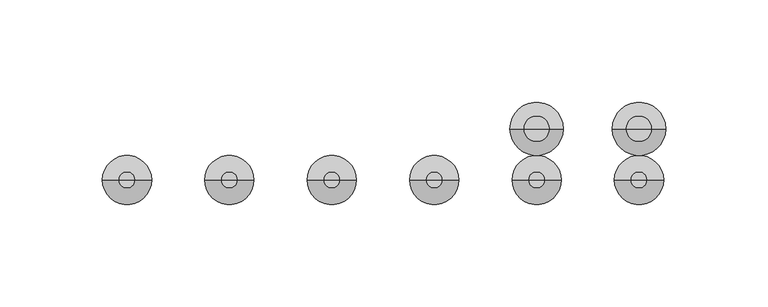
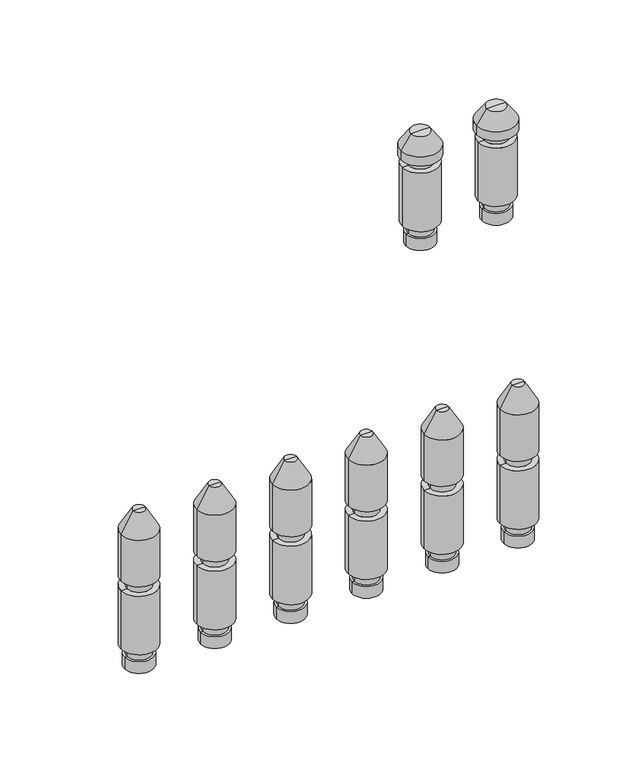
"""IFC4 building model written with IfcOpenShell, lengths in millimetres: valve geometry, PL CZ_Manifold_FT-VA : 09 circuits."""

from ifc_helpers import new_model, si_unit, frame, origin, place, context, project, spatial, polyline, circle_curve, source, transform, mapped, element, save
from ifc_brep_helpers import plane_surface, cylinder_surface, revolved_surface, advanced_brep


def valve_2528c4ae(model_context):
    return source(origin(), model_context, "Body", "AdvancedBrep", [
        advanced_brep(
        [(378.5, 0.0, -35.11267), (397.5, 0.0, -35.11267), (388.0, 0.0, -35.11267), (378.5, 0.0, -27.0369646), (397.5, 0.0, -27.0369646), (380.0, 0.0, -27.0369646), (396.0, 0.0, -27.0369646), (380.0, 0.0, -20.330253), (396.0, 0.0, -20.330253), (376.0, 0.0, -20.330253), (400.0, 0.0, -20.330253), (376.0, 0.0, 20.330253), (400.0, 0.0, 20.330253), (380.0, 0.0, 20.330253), (396.0, 0.0, 20.330253), (380.0, 0.0, 27.0474786), (396.0, 0.0, 27.0474786), (376.0, 0.0, 27.0474786), (400.0, 0.0, 27.0474786), (376.0, 0.0, 59.4084325), (400.0, 0.0, 59.4084325), (384.0, 0.0, 73.264839), (392.0, 0.0, 73.264839), (388.0, 0.0, 73.264839)],
        [
            (0, 1, circle_curve(frame((388.0, 0.0, -35.11267), z_axis=(0.0, 0.0, -1.0), x_axis=(1.0, 0.0, 0.0)), 9.5)),
            (1, 2),
            (2, 0),
            (1, 0, circle_curve(frame((388.0, 0.0, -35.11267), z_axis=(0.0, 0.0, -1.0), x_axis=(1.0, 0.0, 0.0)), 9.5)),
            (3, 4, circle_curve(frame((388.0, 0.0, -27.0369646), z_axis=(0.0, 0.0, -1.0), x_axis=(1.0, 0.0, 0.0)), 9.5)),
            (4, 1),
            (0, 3),
            (4, 3, circle_curve(frame((388.0, 0.0, -27.0369646), z_axis=(0.0, 0.0, -1.0), x_axis=(1.0, 0.0, 0.0)), 9.5)),
            (5, 6, circle_curve(frame((388.0, 0.0, -27.0369646), z_axis=(0.0, 0.0, -1.0), x_axis=(1.0, 0.0, 0.0)), 8.0)),
            (6, 4),
            (3, 5),
            (6, 5, circle_curve(frame((388.0, 0.0, -27.0369646), z_axis=(0.0, 0.0, -1.0), x_axis=(1.0, 0.0, 0.0)), 8.0)),
            (7, 8, circle_curve(frame((388.0, 0.0, -20.330253), z_axis=(0.0, 0.0, -1.0), x_axis=(1.0, 0.0, 0.0)), 8.0)),
            (8, 6),
            (5, 7),
            (8, 7, circle_curve(frame((388.0, 0.0, -20.330253), z_axis=(0.0, 0.0, -1.0), x_axis=(1.0, 0.0, 0.0)), 8.0)),
            (9, 10, circle_curve(frame((388.0, 0.0, -20.330253), z_axis=(0.0, 0.0, -1.0), x_axis=(1.0, 0.0, 0.0)), 12.0)),
            (10, 8),
            (7, 9),
            (10, 9, circle_curve(frame((388.0, 0.0, -20.330253), z_axis=(0.0, 0.0, -1.0), x_axis=(1.0, 0.0, 0.0)), 12.0)),
            (11, 12, circle_curve(frame((388.0, 0.0, 20.330253), z_axis=(0.0, 0.0, -1.0), x_axis=(1.0, 0.0, 0.0)), 12.0)),
            (12, 10),
            (9, 11),
            (12, 11, circle_curve(frame((388.0, 0.0, 20.330253), z_axis=(0.0, 0.0, -1.0), x_axis=(1.0, 0.0, 0.0)), 12.0)),
            (13, 14, circle_curve(frame((388.0, 0.0, 20.330253), z_axis=(0.0, 0.0, -1.0), x_axis=(1.0, 0.0, 0.0)), 8.0)),
            (14, 12),
            (11, 13),
            (14, 13, circle_curve(frame((388.0, 0.0, 20.330253), z_axis=(0.0, 0.0, -1.0), x_axis=(1.0, 0.0, 0.0)), 8.0)),
            (15, 16, circle_curve(frame((388.0, 0.0, 27.0474786), z_axis=(0.0, 0.0, -1.0), x_axis=(1.0, 0.0, 0.0)), 8.0)),
            (16, 14),
            (13, 15),
            (16, 15, circle_curve(frame((388.0, 0.0, 27.0474786), z_axis=(0.0, 0.0, -1.0), x_axis=(1.0, 0.0, 0.0)), 8.0)),
            (17, 18, circle_curve(frame((388.0, 0.0, 27.0474786), z_axis=(0.0, 0.0, -1.0), x_axis=(1.0, 0.0, 0.0)), 12.0)),
            (18, 16),
            (15, 17),
            (18, 17, circle_curve(frame((388.0, 0.0, 27.0474786), z_axis=(0.0, 0.0, -1.0), x_axis=(1.0, 0.0, 0.0)), 12.0)),
            (19, 20, circle_curve(frame((388.0, 0.0, 59.4084325), z_axis=(0.0, 0.0, -1.0), x_axis=(1.0, 0.0, 0.0)), 12.0)),
            (20, 18),
            (17, 19),
            (20, 19, circle_curve(frame((388.0, 0.0, 59.4084325), z_axis=(0.0, 0.0, -1.0), x_axis=(1.0, 0.0, 0.0)), 12.0)),
            (21, 22, circle_curve(frame((388.0, 0.0, 73.264839), z_axis=(0.0, 0.0, -1.0), x_axis=(1.0, 0.0, 0.0)), 4.0)),
            (22, 20),
            (19, 21),
            (22, 21, circle_curve(frame((388.0, 0.0, 73.264839), z_axis=(0.0, 0.0, -1.0), x_axis=(1.0, 0.0, 0.0)), 4.0)),
            (23, 22),
            (21, 23),
        ],
        [
            plane_surface(frame((388.0, 0.0, -35.11267), z_axis=(0.0, 0.0, -1.0), x_axis=(1.0, 0.0, 0.0))),
            cylinder_surface(frame((388.0, 0.0, 58.264839), z_axis=(0.0, 0.0, 1.0), x_axis=(1.0, 0.0, 0.0)), 9.5),
            plane_surface(frame((388.0, 0.0, -27.0369646), z_axis=(0.0, 0.0, 1.0), x_axis=(1.0, 0.0, 0.0))),
            cylinder_surface(frame((388.0, 0.0, 58.264839), z_axis=(0.0, 0.0, 1.0), x_axis=(1.0, 0.0, 0.0)), 8.0),
            plane_surface(frame((388.0, 0.0, -20.330253), z_axis=(0.0, 0.0, -1.0), x_axis=(1.0, 0.0, 0.0))),
            cylinder_surface(frame((388.0, 0.0, 58.264839), z_axis=(0.0, 0.0, 1.0), x_axis=(1.0, 0.0, 0.0)), 12.0),
            plane_surface(frame((388.0, 0.0, 20.330253), z_axis=(0.0, 0.0, 1.0), x_axis=(1.0, 0.0, 0.0))),
            plane_surface(frame((388.0, 0.0, 27.0474786), z_axis=(0.0, 0.0, -1.0), x_axis=(1.0, 0.0, 0.0))),
            revolved_surface(polyline([(400.0, 0.0, 59.4084325), (392.0, 0.0, 73.264839)]), (388.0, 0.0, 58.264839), (0.0, 0.0, 1.0)),
            plane_surface(frame((388.0, 0.0, 73.264839), z_axis=(0.0, 0.0, 1.0), x_axis=(1.0, 0.0, 0.0))),
        ],
        [
            (0, [[1, 2, 3]]),
            (0, [[4, -3, -2]]),
            (1, [[5, 6, -1, 7]]),
            (1, [[8, -7, -4, -6]]),
            (2, [[9, 10, -5, 11]]),
            (2, [[12, -11, -8, -10]]),
            (3, [[13, 14, -9, 15]]),
            (3, [[16, -15, -12, -14]]),
            (4, [[17, 18, -13, 19]]),
            (4, [[20, -19, -16, -18]]),
            (5, [[21, 22, -17, 23]]),
            (5, [[24, -23, -20, -22]]),
            (6, [[25, 26, -21, 27]]),
            (6, [[28, -27, -24, -26]]),
            (3, [[29, 30, -25, 31]]),
            (3, [[32, -31, -28, -30]]),
            (7, [[33, 34, -29, 35]]),
            (7, [[36, -35, -32, -34]]),
            (5, [[37, 38, -33, 39]]),
            (5, [[40, -39, -36, -38]]),
            (8, [[41, 42, -37, 43]]),
            (8, [[44, -43, -40, -42]]),
            (9, [[45, -41, 46]]),
            (9, [[-46, -44, -45]]),
        ],
    ),
        advanced_brep(
        [(378.5, 25.0, 174.88733), (397.5, 25.0, 174.88733), (388.0, 25.0, 174.88733), (378.5, 25.0, 182.9630354), (397.5, 25.0, 182.9630354), (380.0, 25.0, 182.9630354), (396.0, 25.0, 182.9630354), (380.0, 25.0, 189.669747), (396.0, 25.0, 189.669747), (376.0, 25.0, 189.669747), (400.0, 25.0, 189.669747), (376.0, 25.0, 230.330253), (400.0, 25.0, 230.330253), (380.0, 25.0, 230.330253), (396.0, 25.0, 230.330253), (380.0, 25.0, 236.0474786), (396.0, 25.0, 236.0474786), (375.0, 25.0, 236.0474786), (401.0, 25.0, 236.0474786), (375.0, 25.0, 242.337955), (401.0, 25.0, 242.337955), (381.6551779, 25.0, 251.842534), (394.3448221, 25.0, 251.842534), (388.0, 25.0, 251.842534)],
        [
            (0, 1, circle_curve(frame((388.0, 25.0, 174.88733), z_axis=(0.0, 0.0, -1.0), x_axis=(1.0, 0.0, 0.0)), 9.5)),
            (1, 2),
            (2, 0),
            (1, 0, circle_curve(frame((388.0, 25.0, 174.88733), z_axis=(0.0, 0.0, -1.0), x_axis=(1.0, 0.0, 0.0)), 9.5)),
            (3, 4, circle_curve(frame((388.0, 25.0, 182.9630354), z_axis=(0.0, 0.0, -1.0), x_axis=(1.0, 0.0, 0.0)), 9.5)),
            (4, 1),
            (0, 3),
            (4, 3, circle_curve(frame((388.0, 25.0, 182.9630354), z_axis=(0.0, 0.0, -1.0), x_axis=(1.0, 0.0, 0.0)), 9.5)),
            (5, 6, circle_curve(frame((388.0, 25.0, 182.9630354), z_axis=(0.0, 0.0, -1.0), x_axis=(1.0, 0.0, 0.0)), 8.0)),
            (6, 4),
            (3, 5),
            (6, 5, circle_curve(frame((388.0, 25.0, 182.9630354), z_axis=(0.0, 0.0, -1.0), x_axis=(1.0, 0.0, 0.0)), 8.0)),
            (7, 8, circle_curve(frame((388.0, 25.0, 189.669747), z_axis=(0.0, 0.0, -1.0), x_axis=(1.0, 0.0, 0.0)), 8.0)),
            (8, 6),
            (5, 7),
            (8, 7, circle_curve(frame((388.0, 25.0, 189.669747), z_axis=(0.0, 0.0, -1.0), x_axis=(1.0, 0.0, 0.0)), 8.0)),
            (9, 10, circle_curve(frame((388.0, 25.0, 189.669747), z_axis=(0.0, 0.0, -1.0), x_axis=(1.0, 0.0, 0.0)), 12.0)),
            (10, 8),
            (7, 9),
            (10, 9, circle_curve(frame((388.0, 25.0, 189.669747), z_axis=(0.0, 0.0, -1.0), x_axis=(1.0, 0.0, 0.0)), 12.0)),
            (11, 12, circle_curve(frame((388.0, 25.0, 230.330253), z_axis=(0.0, 0.0, -1.0), x_axis=(1.0, 0.0, 0.0)), 12.0)),
            (12, 10),
            (9, 11),
            (12, 11, circle_curve(frame((388.0, 25.0, 230.330253), z_axis=(0.0, 0.0, -1.0), x_axis=(1.0, 0.0, 0.0)), 12.0)),
            (13, 14, circle_curve(frame((388.0, 25.0, 230.330253), z_axis=(0.0, 0.0, -1.0), x_axis=(1.0, 0.0, 0.0)), 8.0)),
            (14, 12),
            (11, 13),
            (14, 13, circle_curve(frame((388.0, 25.0, 230.330253), z_axis=(0.0, 0.0, -1.0), x_axis=(1.0, 0.0, 0.0)), 8.0)),
            (15, 16, circle_curve(frame((388.0, 25.0, 236.0474786), z_axis=(0.0, 0.0, -1.0), x_axis=(1.0, 0.0, 0.0)), 8.0)),
            (16, 14),
            (13, 15),
            (16, 15, circle_curve(frame((388.0, 25.0, 236.0474786), z_axis=(0.0, 0.0, -1.0), x_axis=(1.0, 0.0, 0.0)), 8.0)),
            (17, 18, circle_curve(frame((388.0, 25.0, 236.0474786), z_axis=(0.0, 0.0, -1.0), x_axis=(1.0, 0.0, 0.0)), 13.0)),
            (18, 16),
            (15, 17),
            (18, 17, circle_curve(frame((388.0, 25.0, 236.0474786), z_axis=(0.0, 0.0, -1.0), x_axis=(1.0, 0.0, 0.0)), 13.0)),
            (19, 20, circle_curve(frame((388.0, 25.0, 242.337955), z_axis=(0.0, 0.0, -1.0), x_axis=(1.0, 0.0, 0.0)), 13.0)),
            (20, 18),
            (17, 19),
            (20, 19, circle_curve(frame((388.0, 25.0, 242.337955), z_axis=(0.0, 0.0, -1.0), x_axis=(1.0, 0.0, 0.0)), 13.0)),
            (21, 22, circle_curve(frame((388.0, 25.0, 251.842534), z_axis=(0.0, 0.0, -1.0), x_axis=(1.0, 0.0, 0.0)), 6.3448221)),
            (22, 20),
            (19, 21),
            (22, 21, circle_curve(frame((388.0, 25.0, 251.842534), z_axis=(0.0, 0.0, -1.0), x_axis=(1.0, 0.0, 0.0)), 6.3448221)),
            (23, 22),
            (21, 23),
        ],
        [
            plane_surface(frame((388.0, 25.0, 174.88733), z_axis=(0.0, 0.0, -1.0), x_axis=(1.0, 0.0, 0.0))),
            cylinder_surface(frame((388.0, 25.0, 247.7026565), z_axis=(0.0, 0.0, 1.0), x_axis=(1.0, 0.0, 0.0)), 9.5),
            plane_surface(frame((388.0, 25.0, 182.9630354), z_axis=(0.0, 0.0, 1.0), x_axis=(1.0, 0.0, 0.0))),
            cylinder_surface(frame((388.0, 25.0, 247.7026565), z_axis=(0.0, 0.0, 1.0), x_axis=(1.0, 0.0, 0.0)), 8.0),
            plane_surface(frame((388.0, 25.0, 189.669747), z_axis=(0.0, 0.0, -1.0), x_axis=(1.0, 0.0, 0.0))),
            cylinder_surface(frame((388.0, 25.0, 247.7026565), z_axis=(0.0, 0.0, 1.0), x_axis=(1.0, 0.0, 0.0)), 12.0),
            plane_surface(frame((388.0, 25.0, 230.330253), z_axis=(0.0, 0.0, 1.0), x_axis=(1.0, 0.0, 0.0))),
            plane_surface(frame((388.0, 25.0, 236.0474786), z_axis=(0.0, 0.0, -1.0), x_axis=(1.0, 0.0, 0.0))),
            cylinder_surface(frame((388.0, 25.0, 247.7026565), z_axis=(0.0, 0.0, 1.0), x_axis=(1.0, 0.0, 0.0)), 13.0),
            revolved_surface(polyline([(401.0, 25.0, 242.337955), (394.3448221, 25.0, 251.842534)]), (388.0, 25.0, 247.7026565), (0.0, 0.0, 1.0)),
            plane_surface(frame((388.0, 25.0, 251.842534), z_axis=(0.0, 0.0, 1.0), x_axis=(1.0, 0.0, 0.0))),
        ],
        [
            (0, [[1, 2, 3]]),
            (0, [[4, -3, -2]]),
            (1, [[5, 6, -1, 7]]),
            (1, [[8, -7, -4, -6]]),
            (2, [[9, 10, -5, 11]]),
            (2, [[12, -11, -8, -10]]),
            (3, [[13, 14, -9, 15]]),
            (3, [[16, -15, -12, -14]]),
            (4, [[17, 18, -13, 19]]),
            (4, [[20, -19, -16, -18]]),
            (5, [[21, 22, -17, 23]]),
            (5, [[24, -23, -20, -22]]),
            (6, [[25, 26, -21, 27]]),
            (6, [[28, -27, -24, -26]]),
            (3, [[29, 30, -25, 31]]),
            (3, [[32, -31, -28, -30]]),
            (7, [[33, 34, -29, 35]]),
            (7, [[36, -35, -32, -34]]),
            (8, [[37, 38, -33, 39]]),
            (8, [[40, -39, -36, -38]]),
            (9, [[41, 42, -37, 43]]),
            (9, [[44, -43, -40, -42]]),
            (10, [[45, -41, 46]]),
            (10, [[-46, -44, -45]]),
        ],
    ),
        advanced_brep(
        [(328.5, 0.0, -35.11267), (347.5, 0.0, -35.11267), (338.0, 0.0, -35.11267), (328.5, 0.0, -27.0369646), (347.5, 0.0, -27.0369646), (330.0, 0.0, -27.0369646), (346.0, 0.0, -27.0369646), (330.0, 0.0, -20.330253), (346.0, 0.0, -20.330253), (326.0, 0.0, -20.330253), (350.0, 0.0, -20.330253), (326.0, 0.0, 20.330253), (350.0, 0.0, 20.330253), (330.0, 0.0, 20.330253), (346.0, 0.0, 20.330253), (330.0, 0.0, 27.0474786), (346.0, 0.0, 27.0474786), (326.0, 0.0, 27.0474786), (350.0, 0.0, 27.0474786), (326.0, 0.0, 59.4084325), (350.0, 0.0, 59.4084325), (334.0, 0.0, 73.264839), (342.0, 0.0, 73.264839), (338.0, 0.0, 73.264839)],
        [
            (0, 1, circle_curve(frame((338.0, 0.0, -35.11267), z_axis=(0.0, 0.0, -1.0), x_axis=(1.0, 0.0, 0.0)), 9.5)),
            (1, 2),
            (2, 0),
            (1, 0, circle_curve(frame((338.0, 0.0, -35.11267), z_axis=(0.0, 0.0, -1.0), x_axis=(1.0, 0.0, 0.0)), 9.5)),
            (3, 4, circle_curve(frame((338.0, 0.0, -27.0369646), z_axis=(0.0, 0.0, -1.0), x_axis=(1.0, 0.0, 0.0)), 9.5)),
            (4, 1),
            (0, 3),
            (4, 3, circle_curve(frame((338.0, 0.0, -27.0369646), z_axis=(0.0, 0.0, -1.0), x_axis=(1.0, 0.0, 0.0)), 9.5)),
            (5, 6, circle_curve(frame((338.0, 0.0, -27.0369646), z_axis=(0.0, 0.0, -1.0), x_axis=(1.0, 0.0, 0.0)), 8.0)),
            (6, 4),
            (3, 5),
            (6, 5, circle_curve(frame((338.0, 0.0, -27.0369646), z_axis=(0.0, 0.0, -1.0), x_axis=(1.0, 0.0, 0.0)), 8.0)),
            (7, 8, circle_curve(frame((338.0, 0.0, -20.330253), z_axis=(0.0, 0.0, -1.0), x_axis=(1.0, 0.0, 0.0)), 8.0)),
            (8, 6),
            (5, 7),
            (8, 7, circle_curve(frame((338.0, 0.0, -20.330253), z_axis=(0.0, 0.0, -1.0), x_axis=(1.0, 0.0, 0.0)), 8.0)),
            (9, 10, circle_curve(frame((338.0, 0.0, -20.330253), z_axis=(0.0, 0.0, -1.0), x_axis=(1.0, 0.0, 0.0)), 12.0)),
            (10, 8),
            (7, 9),
            (10, 9, circle_curve(frame((338.0, 0.0, -20.330253), z_axis=(0.0, 0.0, -1.0), x_axis=(1.0, 0.0, 0.0)), 12.0)),
            (11, 12, circle_curve(frame((338.0, 0.0, 20.330253), z_axis=(0.0, 0.0, -1.0), x_axis=(1.0, 0.0, 0.0)), 12.0)),
            (12, 10),
            (9, 11),
            (12, 11, circle_curve(frame((338.0, 0.0, 20.330253), z_axis=(0.0, 0.0, -1.0), x_axis=(1.0, 0.0, 0.0)), 12.0)),
            (13, 14, circle_curve(frame((338.0, 0.0, 20.330253), z_axis=(0.0, 0.0, -1.0), x_axis=(1.0, 0.0, 0.0)), 8.0)),
            (14, 12),
            (11, 13),
            (14, 13, circle_curve(frame((338.0, 0.0, 20.330253), z_axis=(0.0, 0.0, -1.0), x_axis=(1.0, 0.0, 0.0)), 8.0)),
            (15, 16, circle_curve(frame((338.0, 0.0, 27.0474786), z_axis=(0.0, 0.0, -1.0), x_axis=(1.0, 0.0, 0.0)), 8.0)),
            (16, 14),
            (13, 15),
            (16, 15, circle_curve(frame((338.0, 0.0, 27.0474786), z_axis=(0.0, 0.0, -1.0), x_axis=(1.0, 0.0, 0.0)), 8.0)),
            (17, 18, circle_curve(frame((338.0, 0.0, 27.0474786), z_axis=(0.0, 0.0, -1.0), x_axis=(1.0, 0.0, 0.0)), 12.0)),
            (18, 16),
            (15, 17),
            (18, 17, circle_curve(frame((338.0, 0.0, 27.0474786), z_axis=(0.0, 0.0, -1.0), x_axis=(1.0, 0.0, 0.0)), 12.0)),
            (19, 20, circle_curve(frame((338.0, 0.0, 59.4084325), z_axis=(0.0, 0.0, -1.0), x_axis=(1.0, 0.0, 0.0)), 12.0)),
            (20, 18),
            (17, 19),
            (20, 19, circle_curve(frame((338.0, 0.0, 59.4084325), z_axis=(0.0, 0.0, -1.0), x_axis=(1.0, 0.0, 0.0)), 12.0)),
            (21, 22, circle_curve(frame((338.0, 0.0, 73.264839), z_axis=(0.0, 0.0, -1.0), x_axis=(1.0, 0.0, 0.0)), 4.0)),
            (22, 20),
            (19, 21),
            (22, 21, circle_curve(frame((338.0, 0.0, 73.264839), z_axis=(0.0, 0.0, -1.0), x_axis=(1.0, 0.0, 0.0)), 4.0)),
            (23, 22),
            (21, 23),
        ],
        [
            plane_surface(frame((338.0, 0.0, -35.11267), z_axis=(0.0, 0.0, -1.0), x_axis=(1.0, 0.0, 0.0))),
            cylinder_surface(frame((338.0, 0.0, 58.264839), z_axis=(0.0, 0.0, 1.0), x_axis=(1.0, 0.0, 0.0)), 9.5),
            plane_surface(frame((338.0, 0.0, -27.0369646), z_axis=(0.0, 0.0, 1.0), x_axis=(1.0, 0.0, 0.0))),
            cylinder_surface(frame((338.0, 0.0, 58.264839), z_axis=(0.0, 0.0, 1.0), x_axis=(1.0, 0.0, 0.0)), 8.0),
            plane_surface(frame((338.0, 0.0, -20.330253), z_axis=(0.0, 0.0, -1.0), x_axis=(1.0, 0.0, 0.0))),
            cylinder_surface(frame((338.0, 0.0, 58.264839), z_axis=(0.0, 0.0, 1.0), x_axis=(1.0, 0.0, 0.0)), 12.0),
            plane_surface(frame((338.0, 0.0, 20.330253), z_axis=(0.0, 0.0, 1.0), x_axis=(1.0, 0.0, 0.0))),
            plane_surface(frame((338.0, 0.0, 27.0474786), z_axis=(0.0, 0.0, -1.0), x_axis=(1.0, 0.0, 0.0))),
            revolved_surface(polyline([(350.0, 0.0, 59.4084325), (342.0, 0.0, 73.264839)]), (338.0, 0.0, 58.264839), (0.0, 0.0, 1.0)),
            plane_surface(frame((338.0, 0.0, 73.264839), z_axis=(0.0, 0.0, 1.0), x_axis=(1.0, 0.0, 0.0))),
        ],
        [
            (0, [[1, 2, 3]]),
            (0, [[4, -3, -2]]),
            (1, [[5, 6, -1, 7]]),
            (1, [[8, -7, -4, -6]]),
            (2, [[9, 10, -5, 11]]),
            (2, [[12, -11, -8, -10]]),
            (3, [[13, 14, -9, 15]]),
            (3, [[16, -15, -12, -14]]),
            (4, [[17, 18, -13, 19]]),
            (4, [[20, -19, -16, -18]]),
            (5, [[21, 22, -17, 23]]),
            (5, [[24, -23, -20, -22]]),
            (6, [[25, 26, -21, 27]]),
            (6, [[28, -27, -24, -26]]),
            (3, [[29, 30, -25, 31]]),
            (3, [[32, -31, -28, -30]]),
            (7, [[33, 34, -29, 35]]),
            (7, [[36, -35, -32, -34]]),
            (5, [[37, 38, -33, 39]]),
            (5, [[40, -39, -36, -38]]),
            (8, [[41, 42, -37, 43]]),
            (8, [[44, -43, -40, -42]]),
            (9, [[45, -41, 46]]),
            (9, [[-46, -44, -45]]),
        ],
    ),
        advanced_brep(
        [(328.5, 25.0, 174.88733), (347.5, 25.0, 174.88733), (338.0, 25.0, 174.88733), (328.5, 25.0, 182.9630354), (347.5, 25.0, 182.9630354), (330.0, 25.0, 182.9630354), (346.0, 25.0, 182.9630354), (330.0, 25.0, 189.669747), (346.0, 25.0, 189.669747), (326.0, 25.0, 189.669747), (350.0, 25.0, 189.669747), (326.0, 25.0, 230.330253), (350.0, 25.0, 230.330253), (330.0, 25.0, 230.330253), (346.0, 25.0, 230.330253), (330.0, 25.0, 236.0474786), (346.0, 25.0, 236.0474786), (325.0, 25.0, 236.0474786), (351.0, 25.0, 236.0474786), (325.0, 25.0, 242.337955), (351.0, 25.0, 242.337955), (331.6551779, 25.0, 251.842534), (344.3448221, 25.0, 251.842534), (338.0, 25.0, 251.842534)],
        [
            (0, 1, circle_curve(frame((338.0, 25.0, 174.88733), z_axis=(0.0, 0.0, -1.0), x_axis=(1.0, 0.0, 0.0)), 9.5)),
            (1, 2),
            (2, 0),
            (1, 0, circle_curve(frame((338.0, 25.0, 174.88733), z_axis=(0.0, 0.0, -1.0), x_axis=(1.0, 0.0, 0.0)), 9.5)),
            (3, 4, circle_curve(frame((338.0, 25.0, 182.9630354), z_axis=(0.0, 0.0, -1.0), x_axis=(1.0, 0.0, 0.0)), 9.5)),
            (4, 1),
            (0, 3),
            (4, 3, circle_curve(frame((338.0, 25.0, 182.9630354), z_axis=(0.0, 0.0, -1.0), x_axis=(1.0, 0.0, 0.0)), 9.5)),
            (5, 6, circle_curve(frame((338.0, 25.0, 182.9630354), z_axis=(0.0, 0.0, -1.0), x_axis=(1.0, 0.0, 0.0)), 8.0)),
            (6, 4),
            (3, 5),
            (6, 5, circle_curve(frame((338.0, 25.0, 182.9630354), z_axis=(0.0, 0.0, -1.0), x_axis=(1.0, 0.0, 0.0)), 8.0)),
            (7, 8, circle_curve(frame((338.0, 25.0, 189.669747), z_axis=(0.0, 0.0, -1.0), x_axis=(1.0, 0.0, 0.0)), 8.0)),
            (8, 6),
            (5, 7),
            (8, 7, circle_curve(frame((338.0, 25.0, 189.669747), z_axis=(0.0, 0.0, -1.0), x_axis=(1.0, 0.0, 0.0)), 8.0)),
            (9, 10, circle_curve(frame((338.0, 25.0, 189.669747), z_axis=(0.0, 0.0, -1.0), x_axis=(1.0, 0.0, 0.0)), 12.0)),
            (10, 8),
            (7, 9),
            (10, 9, circle_curve(frame((338.0, 25.0, 189.669747), z_axis=(0.0, 0.0, -1.0), x_axis=(1.0, 0.0, 0.0)), 12.0)),
            (11, 12, circle_curve(frame((338.0, 25.0, 230.330253), z_axis=(0.0, 0.0, -1.0), x_axis=(1.0, 0.0, 0.0)), 12.0)),
            (12, 10),
            (9, 11),
            (12, 11, circle_curve(frame((338.0, 25.0, 230.330253), z_axis=(0.0, 0.0, -1.0), x_axis=(1.0, 0.0, 0.0)), 12.0)),
            (13, 14, circle_curve(frame((338.0, 25.0, 230.330253), z_axis=(0.0, 0.0, -1.0), x_axis=(1.0, 0.0, 0.0)), 8.0)),
            (14, 12),
            (11, 13),
            (14, 13, circle_curve(frame((338.0, 25.0, 230.330253), z_axis=(0.0, 0.0, -1.0), x_axis=(1.0, 0.0, 0.0)), 8.0)),
            (15, 16, circle_curve(frame((338.0, 25.0, 236.0474786), z_axis=(0.0, 0.0, -1.0), x_axis=(1.0, 0.0, 0.0)), 8.0)),
            (16, 14),
            (13, 15),
            (16, 15, circle_curve(frame((338.0, 25.0, 236.0474786), z_axis=(0.0, 0.0, -1.0), x_axis=(1.0, 0.0, 0.0)), 8.0)),
            (17, 18, circle_curve(frame((338.0, 25.0, 236.0474786), z_axis=(0.0, 0.0, -1.0), x_axis=(1.0, 0.0, 0.0)), 13.0)),
            (18, 16),
            (15, 17),
            (18, 17, circle_curve(frame((338.0, 25.0, 236.0474786), z_axis=(0.0, 0.0, -1.0), x_axis=(1.0, 0.0, 0.0)), 13.0)),
            (19, 20, circle_curve(frame((338.0, 25.0, 242.337955), z_axis=(0.0, 0.0, -1.0), x_axis=(1.0, 0.0, 0.0)), 13.0)),
            (20, 18),
            (17, 19),
            (20, 19, circle_curve(frame((338.0, 25.0, 242.337955), z_axis=(0.0, 0.0, -1.0), x_axis=(1.0, 0.0, 0.0)), 13.0)),
            (21, 22, circle_curve(frame((338.0, 25.0, 251.842534), z_axis=(0.0, 0.0, -1.0), x_axis=(1.0, 0.0, 0.0)), 6.3448221)),
            (22, 20),
            (19, 21),
            (22, 21, circle_curve(frame((338.0, 25.0, 251.842534), z_axis=(0.0, 0.0, -1.0), x_axis=(1.0, 0.0, 0.0)), 6.3448221)),
            (23, 22),
            (21, 23),
        ],
        [
            plane_surface(frame((338.0, 25.0, 174.88733), z_axis=(0.0, 0.0, -1.0), x_axis=(1.0, 0.0, 0.0))),
            cylinder_surface(frame((338.0, 25.0, 247.7026565), z_axis=(0.0, 0.0, 1.0), x_axis=(1.0, 0.0, 0.0)), 9.5),
            plane_surface(frame((338.0, 25.0, 182.9630354), z_axis=(0.0, 0.0, 1.0), x_axis=(1.0, 0.0, 0.0))),
            cylinder_surface(frame((338.0, 25.0, 247.7026565), z_axis=(0.0, 0.0, 1.0), x_axis=(1.0, 0.0, 0.0)), 8.0),
            plane_surface(frame((338.0, 25.0, 189.669747), z_axis=(0.0, 0.0, -1.0), x_axis=(1.0, 0.0, 0.0))),
            cylinder_surface(frame((338.0, 25.0, 247.7026565), z_axis=(0.0, 0.0, 1.0), x_axis=(1.0, 0.0, 0.0)), 12.0),
            plane_surface(frame((338.0, 25.0, 230.330253), z_axis=(0.0, 0.0, 1.0), x_axis=(1.0, 0.0, 0.0))),
            plane_surface(frame((338.0, 25.0, 236.0474786), z_axis=(0.0, 0.0, -1.0), x_axis=(1.0, 0.0, 0.0))),
            cylinder_surface(frame((338.0, 25.0, 247.7026565), z_axis=(0.0, 0.0, 1.0), x_axis=(1.0, 0.0, 0.0)), 13.0),
            revolved_surface(polyline([(351.0, 25.0, 242.337955), (344.3448221, 25.0, 251.842534)]), (338.0, 25.0, 247.7026565), (0.0, 0.0, 1.0)),
            plane_surface(frame((338.0, 25.0, 251.842534), z_axis=(0.0, 0.0, 1.0), x_axis=(1.0, 0.0, 0.0))),
        ],
        [
            (0, [[1, 2, 3]]),
            (0, [[4, -3, -2]]),
            (1, [[5, 6, -1, 7]]),
            (1, [[8, -7, -4, -6]]),
            (2, [[9, 10, -5, 11]]),
            (2, [[12, -11, -8, -10]]),
            (3, [[13, 14, -9, 15]]),
            (3, [[16, -15, -12, -14]]),
            (4, [[17, 18, -13, 19]]),
            (4, [[20, -19, -16, -18]]),
            (5, [[21, 22, -17, 23]]),
            (5, [[24, -23, -20, -22]]),
            (6, [[25, 26, -21, 27]]),
            (6, [[28, -27, -24, -26]]),
            (3, [[29, 30, -25, 31]]),
            (3, [[32, -31, -28, -30]]),
            (7, [[33, 34, -29, 35]]),
            (7, [[36, -35, -32, -34]]),
            (8, [[37, 38, -33, 39]]),
            (8, [[40, -39, -36, -38]]),
            (9, [[41, 42, -37, 43]]),
            (9, [[44, -43, -40, -42]]),
            (10, [[45, -41, 46]]),
            (10, [[-46, -44, -45]]),
        ],
    ),
        advanced_brep(
        [(278.5, 0.0, -35.11267), (297.5, 0.0, -35.11267), (288.0, 0.0, -35.11267), (278.5, 0.0, -27.0369646), (297.5, 0.0, -27.0369646), (280.0, 0.0, -27.0369646), (296.0, 0.0, -27.0369646), (280.0, 0.0, -20.330253), (296.0, 0.0, -20.330253), (276.0, 0.0, -20.330253), (300.0, 0.0, -20.330253), (276.0, 0.0, 20.330253), (300.0, 0.0, 20.330253), (280.0, 0.0, 20.330253), (296.0, 0.0, 20.330253), (280.0, 0.0, 27.0474786), (296.0, 0.0, 27.0474786), (276.0, 0.0, 27.0474786), (300.0, 0.0, 27.0474786), (276.0, 0.0, 59.4084325), (300.0, 0.0, 59.4084325), (284.0, 0.0, 73.264839), (292.0, 0.0, 73.264839), (288.0, 0.0, 73.264839)],
        [
            (0, 1, circle_curve(frame((288.0, 0.0, -35.11267), z_axis=(0.0, 0.0, -1.0), x_axis=(1.0, 0.0, 0.0)), 9.5)),
            (1, 2),
            (2, 0),
            (1, 0, circle_curve(frame((288.0, 0.0, -35.11267), z_axis=(0.0, 0.0, -1.0), x_axis=(1.0, 0.0, 0.0)), 9.5)),
            (3, 4, circle_curve(frame((288.0, 0.0, -27.0369646), z_axis=(0.0, 0.0, -1.0), x_axis=(1.0, 0.0, 0.0)), 9.5)),
            (4, 1),
            (0, 3),
            (4, 3, circle_curve(frame((288.0, 0.0, -27.0369646), z_axis=(0.0, 0.0, -1.0), x_axis=(1.0, 0.0, 0.0)), 9.5)),
            (5, 6, circle_curve(frame((288.0, 0.0, -27.0369646), z_axis=(0.0, 0.0, -1.0), x_axis=(1.0, 0.0, 0.0)), 8.0)),
            (6, 4),
            (3, 5),
            (6, 5, circle_curve(frame((288.0, 0.0, -27.0369646), z_axis=(0.0, 0.0, -1.0), x_axis=(1.0, 0.0, 0.0)), 8.0)),
            (7, 8, circle_curve(frame((288.0, 0.0, -20.330253), z_axis=(0.0, 0.0, -1.0), x_axis=(1.0, 0.0, 0.0)), 8.0)),
            (8, 6),
            (5, 7),
            (8, 7, circle_curve(frame((288.0, 0.0, -20.330253), z_axis=(0.0, 0.0, -1.0), x_axis=(1.0, 0.0, 0.0)), 8.0)),
            (9, 10, circle_curve(frame((288.0, 0.0, -20.330253), z_axis=(0.0, 0.0, -1.0), x_axis=(1.0, 0.0, 0.0)), 12.0)),
            (10, 8),
            (7, 9),
            (10, 9, circle_curve(frame((288.0, 0.0, -20.330253), z_axis=(0.0, 0.0, -1.0), x_axis=(1.0, 0.0, 0.0)), 12.0)),
            (11, 12, circle_curve(frame((288.0, 0.0, 20.330253), z_axis=(0.0, 0.0, -1.0), x_axis=(1.0, 0.0, 0.0)), 12.0)),
            (12, 10),
            (9, 11),
            (12, 11, circle_curve(frame((288.0, 0.0, 20.330253), z_axis=(0.0, 0.0, -1.0), x_axis=(1.0, 0.0, 0.0)), 12.0)),
            (13, 14, circle_curve(frame((288.0, 0.0, 20.330253), z_axis=(0.0, 0.0, -1.0), x_axis=(1.0, 0.0, 0.0)), 8.0)),
            (14, 12),
            (11, 13),
            (14, 13, circle_curve(frame((288.0, 0.0, 20.330253), z_axis=(0.0, 0.0, -1.0), x_axis=(1.0, 0.0, 0.0)), 8.0)),
            (15, 16, circle_curve(frame((288.0, 0.0, 27.0474786), z_axis=(0.0, 0.0, -1.0), x_axis=(1.0, 0.0, 0.0)), 8.0)),
            (16, 14),
            (13, 15),
            (16, 15, circle_curve(frame((288.0, 0.0, 27.0474786), z_axis=(0.0, 0.0, -1.0), x_axis=(1.0, 0.0, 0.0)), 8.0)),
            (17, 18, circle_curve(frame((288.0, 0.0, 27.0474786), z_axis=(0.0, 0.0, -1.0), x_axis=(1.0, 0.0, 0.0)), 12.0)),
            (18, 16),
            (15, 17),
            (18, 17, circle_curve(frame((288.0, 0.0, 27.0474786), z_axis=(0.0, 0.0, -1.0), x_axis=(1.0, 0.0, 0.0)), 12.0)),
            (19, 20, circle_curve(frame((288.0, 0.0, 59.4084325), z_axis=(0.0, 0.0, -1.0), x_axis=(1.0, 0.0, 0.0)), 12.0)),
            (20, 18),
            (17, 19),
            (20, 19, circle_curve(frame((288.0, 0.0, 59.4084325), z_axis=(0.0, 0.0, -1.0), x_axis=(1.0, 0.0, 0.0)), 12.0)),
            (21, 22, circle_curve(frame((288.0, 0.0, 73.264839), z_axis=(0.0, 0.0, -1.0), x_axis=(1.0, 0.0, 0.0)), 4.0)),
            (22, 20),
            (19, 21),
            (22, 21, circle_curve(frame((288.0, 0.0, 73.264839), z_axis=(0.0, 0.0, -1.0), x_axis=(1.0, 0.0, 0.0)), 4.0)),
            (23, 22),
            (21, 23),
        ],
        [
            plane_surface(frame((288.0, 0.0, -35.11267), z_axis=(0.0, 0.0, -1.0), x_axis=(1.0, 0.0, 0.0))),
            cylinder_surface(frame((288.0, 0.0, 58.264839), z_axis=(0.0, 0.0, 1.0), x_axis=(1.0, 0.0, 0.0)), 9.5),
            plane_surface(frame((288.0, 0.0, -27.0369646), z_axis=(0.0, 0.0, 1.0), x_axis=(1.0, 0.0, 0.0))),
            cylinder_surface(frame((288.0, 0.0, 58.264839), z_axis=(0.0, 0.0, 1.0), x_axis=(1.0, 0.0, 0.0)), 8.0),
            plane_surface(frame((288.0, 0.0, -20.330253), z_axis=(0.0, 0.0, -1.0), x_axis=(1.0, 0.0, 0.0))),
            cylinder_surface(frame((288.0, 0.0, 58.264839), z_axis=(0.0, 0.0, 1.0), x_axis=(1.0, 0.0, 0.0)), 12.0),
            plane_surface(frame((288.0, 0.0, 20.330253), z_axis=(0.0, 0.0, 1.0), x_axis=(1.0, 0.0, 0.0))),
            plane_surface(frame((288.0, 0.0, 27.0474786), z_axis=(0.0, 0.0, -1.0), x_axis=(1.0, 0.0, 0.0))),
            revolved_surface(polyline([(300.0, 0.0, 59.4084325), (292.0, 0.0, 73.264839)]), (288.0, 0.0, 58.264839), (0.0, 0.0, 1.0)),
            plane_surface(frame((288.0, 0.0, 73.264839), z_axis=(0.0, 0.0, 1.0), x_axis=(1.0, 0.0, 0.0))),
        ],
        [
            (0, [[1, 2, 3]]),
            (0, [[4, -3, -2]]),
            (1, [[5, 6, -1, 7]]),
            (1, [[8, -7, -4, -6]]),
            (2, [[9, 10, -5, 11]]),
            (2, [[12, -11, -8, -10]]),
            (3, [[13, 14, -9, 15]]),
            (3, [[16, -15, -12, -14]]),
            (4, [[17, 18, -13, 19]]),
            (4, [[20, -19, -16, -18]]),
            (5, [[21, 22, -17, 23]]),
            (5, [[24, -23, -20, -22]]),
            (6, [[25, 26, -21, 27]]),
            (6, [[28, -27, -24, -26]]),
            (3, [[29, 30, -25, 31]]),
            (3, [[32, -31, -28, -30]]),
            (7, [[33, 34, -29, 35]]),
            (7, [[36, -35, -32, -34]]),
            (5, [[37, 38, -33, 39]]),
            (5, [[40, -39, -36, -38]]),
            (8, [[41, 42, -37, 43]]),
            (8, [[44, -43, -40, -42]]),
            (9, [[45, -41, 46]]),
            (9, [[-46, -44, -45]]),
        ],
    ),
        advanced_brep(
        [(228.5, 0.0, -35.11267), (247.5, 0.0, -35.11267), (238.0, 0.0, -35.11267), (228.5, 0.0, -27.0369646), (247.5, 0.0, -27.0369646), (230.0, 0.0, -27.0369646), (246.0, 0.0, -27.0369646), (230.0, 0.0, -20.330253), (246.0, 0.0, -20.330253), (226.0, 0.0, -20.330253), (250.0, 0.0, -20.330253), (226.0, 0.0, 20.330253), (250.0, 0.0, 20.330253), (230.0, 0.0, 20.330253), (246.0, 0.0, 20.330253), (230.0, 0.0, 27.0474786), (246.0, 0.0, 27.0474786), (226.0, 0.0, 27.0474786), (250.0, 0.0, 27.0474786), (226.0, 0.0, 59.4084325), (250.0, 0.0, 59.4084325), (234.0, 0.0, 73.264839), (242.0, 0.0, 73.264839), (238.0, 0.0, 73.264839)],
        [
            (0, 1, circle_curve(frame((238.0, 0.0, -35.11267), z_axis=(0.0, 0.0, -1.0), x_axis=(1.0, 0.0, 0.0)), 9.5)),
            (1, 2),
            (2, 0),
            (1, 0, circle_curve(frame((238.0, 0.0, -35.11267), z_axis=(0.0, 0.0, -1.0), x_axis=(1.0, 0.0, 0.0)), 9.5)),
            (3, 4, circle_curve(frame((238.0, 0.0, -27.0369646), z_axis=(0.0, 0.0, -1.0), x_axis=(1.0, 0.0, 0.0)), 9.5)),
            (4, 1),
            (0, 3),
            (4, 3, circle_curve(frame((238.0, 0.0, -27.0369646), z_axis=(0.0, 0.0, -1.0), x_axis=(1.0, 0.0, 0.0)), 9.5)),
            (5, 6, circle_curve(frame((238.0, 0.0, -27.0369646), z_axis=(0.0, 0.0, -1.0), x_axis=(1.0, 0.0, 0.0)), 8.0)),
            (6, 4),
            (3, 5),
            (6, 5, circle_curve(frame((238.0, 0.0, -27.0369646), z_axis=(0.0, 0.0, -1.0), x_axis=(1.0, 0.0, 0.0)), 8.0)),
            (7, 8, circle_curve(frame((238.0, 0.0, -20.330253), z_axis=(0.0, 0.0, -1.0), x_axis=(1.0, 0.0, 0.0)), 8.0)),
            (8, 6),
            (5, 7),
            (8, 7, circle_curve(frame((238.0, 0.0, -20.330253), z_axis=(0.0, 0.0, -1.0), x_axis=(1.0, 0.0, 0.0)), 8.0)),
            (9, 10, circle_curve(frame((238.0, 0.0, -20.330253), z_axis=(0.0, 0.0, -1.0), x_axis=(1.0, 0.0, 0.0)), 12.0)),
            (10, 8),
            (7, 9),
            (10, 9, circle_curve(frame((238.0, 0.0, -20.330253), z_axis=(0.0, 0.0, -1.0), x_axis=(1.0, 0.0, 0.0)), 12.0)),
            (11, 12, circle_curve(frame((238.0, 0.0, 20.330253), z_axis=(0.0, 0.0, -1.0), x_axis=(1.0, 0.0, 0.0)), 12.0)),
            (12, 10),
            (9, 11),
            (12, 11, circle_curve(frame((238.0, 0.0, 20.330253), z_axis=(0.0, 0.0, -1.0), x_axis=(1.0, 0.0, 0.0)), 12.0)),
            (13, 14, circle_curve(frame((238.0, 0.0, 20.330253), z_axis=(0.0, 0.0, -1.0), x_axis=(1.0, 0.0, 0.0)), 8.0)),
            (14, 12),
            (11, 13),
            (14, 13, circle_curve(frame((238.0, 0.0, 20.330253), z_axis=(0.0, 0.0, -1.0), x_axis=(1.0, 0.0, 0.0)), 8.0)),
            (15, 16, circle_curve(frame((238.0, 0.0, 27.0474786), z_axis=(0.0, 0.0, -1.0), x_axis=(1.0, 0.0, 0.0)), 8.0)),
            (16, 14),
            (13, 15),
            (16, 15, circle_curve(frame((238.0, 0.0, 27.0474786), z_axis=(0.0, 0.0, -1.0), x_axis=(1.0, 0.0, 0.0)), 8.0)),
            (17, 18, circle_curve(frame((238.0, 0.0, 27.0474786), z_axis=(0.0, 0.0, -1.0), x_axis=(1.0, 0.0, 0.0)), 12.0)),
            (18, 16),
            (15, 17),
            (18, 17, circle_curve(frame((238.0, 0.0, 27.0474786), z_axis=(0.0, 0.0, -1.0), x_axis=(1.0, 0.0, 0.0)), 12.0)),
            (19, 20, circle_curve(frame((238.0, 0.0, 59.4084325), z_axis=(0.0, 0.0, -1.0), x_axis=(1.0, 0.0, 0.0)), 12.0)),
            (20, 18),
            (17, 19),
            (20, 19, circle_curve(frame((238.0, 0.0, 59.4084325), z_axis=(0.0, 0.0, -1.0), x_axis=(1.0, 0.0, 0.0)), 12.0)),
            (21, 22, circle_curve(frame((238.0, 0.0, 73.264839), z_axis=(0.0, 0.0, -1.0), x_axis=(1.0, 0.0, 0.0)), 4.0)),
            (22, 20),
            (19, 21),
            (22, 21, circle_curve(frame((238.0, 0.0, 73.264839), z_axis=(0.0, 0.0, -1.0), x_axis=(1.0, 0.0, 0.0)), 4.0)),
            (23, 22),
            (21, 23),
        ],
        [
            plane_surface(frame((238.0, 0.0, -35.11267), z_axis=(0.0, 0.0, -1.0), x_axis=(1.0, 0.0, 0.0))),
            cylinder_surface(frame((238.0, 0.0, 58.264839), z_axis=(0.0, 0.0, 1.0), x_axis=(1.0, 0.0, 0.0)), 9.5),
            plane_surface(frame((238.0, 0.0, -27.0369646), z_axis=(0.0, 0.0, 1.0), x_axis=(1.0, 0.0, 0.0))),
            cylinder_surface(frame((238.0, 0.0, 58.264839), z_axis=(0.0, 0.0, 1.0), x_axis=(1.0, 0.0, 0.0)), 8.0),
            plane_surface(frame((238.0, 0.0, -20.330253), z_axis=(0.0, 0.0, -1.0), x_axis=(1.0, 0.0, 0.0))),
            cylinder_surface(frame((238.0, 0.0, 58.264839), z_axis=(0.0, 0.0, 1.0), x_axis=(1.0, 0.0, 0.0)), 12.0),
            plane_surface(frame((238.0, 0.0, 20.330253), z_axis=(0.0, 0.0, 1.0), x_axis=(1.0, 0.0, 0.0))),
            plane_surface(frame((238.0, 0.0, 27.0474786), z_axis=(0.0, 0.0, -1.0), x_axis=(1.0, 0.0, 0.0))),
            revolved_surface(polyline([(250.0, 0.0, 59.4084325), (242.0, 0.0, 73.264839)]), (238.0, 0.0, 58.264839), (0.0, 0.0, 1.0)),
            plane_surface(frame((238.0, 0.0, 73.264839), z_axis=(0.0, 0.0, 1.0), x_axis=(1.0, 0.0, 0.0))),
        ],
        [
            (0, [[1, 2, 3]]),
            (0, [[4, -3, -2]]),
            (1, [[5, 6, -1, 7]]),
            (1, [[8, -7, -4, -6]]),
            (2, [[9, 10, -5, 11]]),
            (2, [[12, -11, -8, -10]]),
            (3, [[13, 14, -9, 15]]),
            (3, [[16, -15, -12, -14]]),
            (4, [[17, 18, -13, 19]]),
            (4, [[20, -19, -16, -18]]),
            (5, [[21, 22, -17, 23]]),
            (5, [[24, -23, -20, -22]]),
            (6, [[25, 26, -21, 27]]),
            (6, [[28, -27, -24, -26]]),
            (3, [[29, 30, -25, 31]]),
            (3, [[32, -31, -28, -30]]),
            (7, [[33, 34, -29, 35]]),
            (7, [[36, -35, -32, -34]]),
            (5, [[37, 38, -33, 39]]),
            (5, [[40, -39, -36, -38]]),
            (8, [[41, 42, -37, 43]]),
            (8, [[44, -43, -40, -42]]),
            (9, [[45, -41, 46]]),
            (9, [[-46, -44, -45]]),
        ],
    ),
        advanced_brep(
        [(178.5, 0.0, -35.11267), (197.5, 0.0, -35.11267), (188.0, 0.0, -35.11267), (178.5, 0.0, -27.0369646), (197.5, 0.0, -27.0369646), (180.0, 0.0, -27.0369646), (196.0, 0.0, -27.0369646), (180.0, 0.0, -20.330253), (196.0, 0.0, -20.330253), (176.0, 0.0, -20.330253), (200.0, 0.0, -20.330253), (176.0, 0.0, 20.330253), (200.0, 0.0, 20.330253), (180.0, 0.0, 20.330253), (196.0, 0.0, 20.330253), (180.0, 0.0, 27.0474786), (196.0, 0.0, 27.0474786), (176.0, 0.0, 27.0474786), (200.0, 0.0, 27.0474786), (176.0, 0.0, 59.4084325), (200.0, 0.0, 59.4084325), (184.0, 0.0, 73.264839), (192.0, 0.0, 73.264839), (188.0, 0.0, 73.264839)],
        [
            (0, 1, circle_curve(frame((188.0, 0.0, -35.11267), z_axis=(0.0, 0.0, -1.0), x_axis=(1.0, 0.0, 0.0)), 9.5)),
            (1, 2),
            (2, 0),
            (1, 0, circle_curve(frame((188.0, 0.0, -35.11267), z_axis=(0.0, 0.0, -1.0), x_axis=(1.0, 0.0, 0.0)), 9.5)),
            (3, 4, circle_curve(frame((188.0, 0.0, -27.0369646), z_axis=(0.0, 0.0, -1.0), x_axis=(1.0, 0.0, 0.0)), 9.5)),
            (4, 1),
            (0, 3),
            (4, 3, circle_curve(frame((188.0, 0.0, -27.0369646), z_axis=(0.0, 0.0, -1.0), x_axis=(1.0, 0.0, 0.0)), 9.5)),
            (5, 6, circle_curve(frame((188.0, 0.0, -27.0369646), z_axis=(0.0, 0.0, -1.0), x_axis=(1.0, 0.0, 0.0)), 8.0)),
            (6, 4),
            (3, 5),
            (6, 5, circle_curve(frame((188.0, 0.0, -27.0369646), z_axis=(0.0, 0.0, -1.0), x_axis=(1.0, 0.0, 0.0)), 8.0)),
            (7, 8, circle_curve(frame((188.0, 0.0, -20.330253), z_axis=(0.0, 0.0, -1.0), x_axis=(1.0, 0.0, 0.0)), 8.0)),
            (8, 6),
            (5, 7),
            (8, 7, circle_curve(frame((188.0, 0.0, -20.330253), z_axis=(0.0, 0.0, -1.0), x_axis=(1.0, 0.0, 0.0)), 8.0)),
            (9, 10, circle_curve(frame((188.0, 0.0, -20.330253), z_axis=(0.0, 0.0, -1.0), x_axis=(1.0, 0.0, 0.0)), 12.0)),
            (10, 8),
            (7, 9),
            (10, 9, circle_curve(frame((188.0, 0.0, -20.330253), z_axis=(0.0, 0.0, -1.0), x_axis=(1.0, 0.0, 0.0)), 12.0)),
            (11, 12, circle_curve(frame((188.0, 0.0, 20.330253), z_axis=(0.0, 0.0, -1.0), x_axis=(1.0, 0.0, 0.0)), 12.0)),
            (12, 10),
            (9, 11),
            (12, 11, circle_curve(frame((188.0, 0.0, 20.330253), z_axis=(0.0, 0.0, -1.0), x_axis=(1.0, 0.0, 0.0)), 12.0)),
            (13, 14, circle_curve(frame((188.0, 0.0, 20.330253), z_axis=(0.0, 0.0, -1.0), x_axis=(1.0, 0.0, 0.0)), 8.0)),
            (14, 12),
            (11, 13),
            (14, 13, circle_curve(frame((188.0, 0.0, 20.330253), z_axis=(0.0, 0.0, -1.0), x_axis=(1.0, 0.0, 0.0)), 8.0)),
            (15, 16, circle_curve(frame((188.0, 0.0, 27.0474786), z_axis=(0.0, 0.0, -1.0), x_axis=(1.0, 0.0, 0.0)), 8.0)),
            (16, 14),
            (13, 15),
            (16, 15, circle_curve(frame((188.0, 0.0, 27.0474786), z_axis=(0.0, 0.0, -1.0), x_axis=(1.0, 0.0, 0.0)), 8.0)),
            (17, 18, circle_curve(frame((188.0, 0.0, 27.0474786), z_axis=(0.0, 0.0, -1.0), x_axis=(1.0, 0.0, 0.0)), 12.0)),
            (18, 16),
            (15, 17),
            (18, 17, circle_curve(frame((188.0, 0.0, 27.0474786), z_axis=(0.0, 0.0, -1.0), x_axis=(1.0, 0.0, 0.0)), 12.0)),
            (19, 20, circle_curve(frame((188.0, 0.0, 59.4084325), z_axis=(0.0, 0.0, -1.0), x_axis=(1.0, 0.0, 0.0)), 12.0)),
            (20, 18),
            (17, 19),
            (20, 19, circle_curve(frame((188.0, 0.0, 59.4084325), z_axis=(0.0, 0.0, -1.0), x_axis=(1.0, 0.0, 0.0)), 12.0)),
            (21, 22, circle_curve(frame((188.0, 0.0, 73.264839), z_axis=(0.0, 0.0, -1.0), x_axis=(1.0, 0.0, 0.0)), 4.0)),
            (22, 20),
            (19, 21),
            (22, 21, circle_curve(frame((188.0, 0.0, 73.264839), z_axis=(0.0, 0.0, -1.0), x_axis=(1.0, 0.0, 0.0)), 4.0)),
            (23, 22),
            (21, 23),
        ],
        [
            plane_surface(frame((188.0, 0.0, -35.11267), z_axis=(0.0, 0.0, -1.0), x_axis=(1.0, 0.0, 0.0))),
            cylinder_surface(frame((188.0, 0.0, 58.264839), z_axis=(0.0, 0.0, 1.0), x_axis=(1.0, 0.0, 0.0)), 9.5),
            plane_surface(frame((188.0, 0.0, -27.0369646), z_axis=(0.0, 0.0, 1.0), x_axis=(1.0, 0.0, 0.0))),
            cylinder_surface(frame((188.0, 0.0, 58.264839), z_axis=(0.0, 0.0, 1.0), x_axis=(1.0, 0.0, 0.0)), 8.0),
            plane_surface(frame((188.0, 0.0, -20.330253), z_axis=(0.0, 0.0, -1.0), x_axis=(1.0, 0.0, 0.0))),
            cylinder_surface(frame((188.0, 0.0, 58.264839), z_axis=(0.0, 0.0, 1.0), x_axis=(1.0, 0.0, 0.0)), 12.0),
            plane_surface(frame((188.0, 0.0, 20.330253), z_axis=(0.0, 0.0, 1.0), x_axis=(1.0, 0.0, 0.0))),
            plane_surface(frame((188.0, 0.0, 27.0474786), z_axis=(0.0, 0.0, -1.0), x_axis=(1.0, 0.0, 0.0))),
            revolved_surface(polyline([(200.0, 0.0, 59.4084325), (192.0, 0.0, 73.264839)]), (188.0, 0.0, 58.264839), (0.0, 0.0, 1.0)),
            plane_surface(frame((188.0, 0.0, 73.264839), z_axis=(0.0, 0.0, 1.0), x_axis=(1.0, 0.0, 0.0))),
        ],
        [
            (0, [[1, 2, 3]]),
            (0, [[4, -3, -2]]),
            (1, [[5, 6, -1, 7]]),
            (1, [[8, -7, -4, -6]]),
            (2, [[9, 10, -5, 11]]),
            (2, [[12, -11, -8, -10]]),
            (3, [[13, 14, -9, 15]]),
            (3, [[16, -15, -12, -14]]),
            (4, [[17, 18, -13, 19]]),
            (4, [[20, -19, -16, -18]]),
            (5, [[21, 22, -17, 23]]),
            (5, [[24, -23, -20, -22]]),
            (6, [[25, 26, -21, 27]]),
            (6, [[28, -27, -24, -26]]),
            (3, [[29, 30, -25, 31]]),
            (3, [[32, -31, -28, -30]]),
            (7, [[33, 34, -29, 35]]),
            (7, [[36, -35, -32, -34]]),
            (5, [[37, 38, -33, 39]]),
            (5, [[40, -39, -36, -38]]),
            (8, [[41, 42, -37, 43]]),
            (8, [[44, -43, -40, -42]]),
            (9, [[45, -41, 46]]),
            (9, [[-46, -44, -45]]),
        ],
    ),
        advanced_brep(
        [(128.5, 0.0, -35.11267), (147.5, 0.0, -35.11267), (138.0, 0.0, -35.11267), (128.5, 0.0, -27.0369646), (147.5, 0.0, -27.0369646), (130.0, 0.0, -27.0369646), (146.0, 0.0, -27.0369646), (130.0, 0.0, -20.330253), (146.0, 0.0, -20.330253), (126.0, 0.0, -20.330253), (150.0, 0.0, -20.330253), (126.0, 0.0, 20.330253), (150.0, 0.0, 20.330253), (130.0, 0.0, 20.330253), (146.0, 0.0, 20.330253), (130.0, 0.0, 27.0474786), (146.0, 0.0, 27.0474786), (126.0, 0.0, 27.0474786), (150.0, 0.0, 27.0474786), (126.0, 0.0, 59.4084325), (150.0, 0.0, 59.4084325), (134.0, 0.0, 73.264839), (142.0, 0.0, 73.264839), (138.0, 0.0, 73.264839)],
        [
            (0, 1, circle_curve(frame((138.0, 0.0, -35.11267), z_axis=(0.0, 0.0, -1.0), x_axis=(1.0, 0.0, 0.0)), 9.5)),
            (1, 2),
            (2, 0),
            (1, 0, circle_curve(frame((138.0, 0.0, -35.11267), z_axis=(0.0, 0.0, -1.0), x_axis=(1.0, 0.0, 0.0)), 9.5)),
            (3, 4, circle_curve(frame((138.0, 0.0, -27.0369646), z_axis=(0.0, 0.0, -1.0), x_axis=(1.0, 0.0, 0.0)), 9.5)),
            (4, 1),
            (0, 3),
            (4, 3, circle_curve(frame((138.0, 0.0, -27.0369646), z_axis=(0.0, 0.0, -1.0), x_axis=(1.0, 0.0, 0.0)), 9.5)),
            (5, 6, circle_curve(frame((138.0, 0.0, -27.0369646), z_axis=(0.0, 0.0, -1.0), x_axis=(1.0, 0.0, 0.0)), 8.0)),
            (6, 4),
            (3, 5),
            (6, 5, circle_curve(frame((138.0, 0.0, -27.0369646), z_axis=(0.0, 0.0, -1.0), x_axis=(1.0, 0.0, 0.0)), 8.0)),
            (7, 8, circle_curve(frame((138.0, 0.0, -20.330253), z_axis=(0.0, 0.0, -1.0), x_axis=(1.0, 0.0, 0.0)), 8.0)),
            (8, 6),
            (5, 7),
            (8, 7, circle_curve(frame((138.0, 0.0, -20.330253), z_axis=(0.0, 0.0, -1.0), x_axis=(1.0, 0.0, 0.0)), 8.0)),
            (9, 10, circle_curve(frame((138.0, 0.0, -20.330253), z_axis=(0.0, 0.0, -1.0), x_axis=(1.0, 0.0, 0.0)), 12.0)),
            (10, 8),
            (7, 9),
            (10, 9, circle_curve(frame((138.0, 0.0, -20.330253), z_axis=(0.0, 0.0, -1.0), x_axis=(1.0, 0.0, 0.0)), 12.0)),
            (11, 12, circle_curve(frame((138.0, 0.0, 20.330253), z_axis=(0.0, 0.0, -1.0), x_axis=(1.0, 0.0, 0.0)), 12.0)),
            (12, 10),
            (9, 11),
            (12, 11, circle_curve(frame((138.0, 0.0, 20.330253), z_axis=(0.0, 0.0, -1.0), x_axis=(1.0, 0.0, 0.0)), 12.0)),
            (13, 14, circle_curve(frame((138.0, 0.0, 20.330253), z_axis=(0.0, 0.0, -1.0), x_axis=(1.0, 0.0, 0.0)), 8.0)),
            (14, 12),
            (11, 13),
            (14, 13, circle_curve(frame((138.0, 0.0, 20.330253), z_axis=(0.0, 0.0, -1.0), x_axis=(1.0, 0.0, 0.0)), 8.0)),
            (15, 16, circle_curve(frame((138.0, 0.0, 27.0474786), z_axis=(0.0, 0.0, -1.0), x_axis=(1.0, 0.0, 0.0)), 8.0)),
            (16, 14),
            (13, 15),
            (16, 15, circle_curve(frame((138.0, 0.0, 27.0474786), z_axis=(0.0, 0.0, -1.0), x_axis=(1.0, 0.0, 0.0)), 8.0)),
            (17, 18, circle_curve(frame((138.0, 0.0, 27.0474786), z_axis=(0.0, 0.0, -1.0), x_axis=(1.0, 0.0, 0.0)), 12.0)),
            (18, 16),
            (15, 17),
            (18, 17, circle_curve(frame((138.0, 0.0, 27.0474786), z_axis=(0.0, 0.0, -1.0), x_axis=(1.0, 0.0, 0.0)), 12.0)),
            (19, 20, circle_curve(frame((138.0, 0.0, 59.4084325), z_axis=(0.0, 0.0, -1.0), x_axis=(1.0, 0.0, 0.0)), 12.0)),
            (20, 18),
            (17, 19),
            (20, 19, circle_curve(frame((138.0, 0.0, 59.4084325), z_axis=(0.0, 0.0, -1.0), x_axis=(1.0, 0.0, 0.0)), 12.0)),
            (21, 22, circle_curve(frame((138.0, 0.0, 73.264839), z_axis=(0.0, 0.0, -1.0), x_axis=(1.0, 0.0, 0.0)), 4.0)),
            (22, 20),
            (19, 21),
            (22, 21, circle_curve(frame((138.0, 0.0, 73.264839), z_axis=(0.0, 0.0, -1.0), x_axis=(1.0, 0.0, 0.0)), 4.0)),
            (23, 22),
            (21, 23),
        ],
        [
            plane_surface(frame((138.0, 0.0, -35.11267), z_axis=(0.0, 0.0, -1.0), x_axis=(1.0, 0.0, 0.0))),
            cylinder_surface(frame((138.0, 0.0, 58.264839), z_axis=(0.0, 0.0, 1.0), x_axis=(1.0, 0.0, 0.0)), 9.5),
            plane_surface(frame((138.0, 0.0, -27.0369646), z_axis=(0.0, 0.0, 1.0), x_axis=(1.0, 0.0, 0.0))),
            cylinder_surface(frame((138.0, 0.0, 58.264839), z_axis=(0.0, 0.0, 1.0), x_axis=(1.0, 0.0, 0.0)), 8.0),
            plane_surface(frame((138.0, 0.0, -20.330253), z_axis=(0.0, 0.0, -1.0), x_axis=(1.0, 0.0, 0.0))),
            cylinder_surface(frame((138.0, 0.0, 58.264839), z_axis=(0.0, 0.0, 1.0), x_axis=(1.0, 0.0, 0.0)), 12.0),
            plane_surface(frame((138.0, 0.0, 20.330253), z_axis=(0.0, 0.0, 1.0), x_axis=(1.0, 0.0, 0.0))),
            plane_surface(frame((138.0, 0.0, 27.0474786), z_axis=(0.0, 0.0, -1.0), x_axis=(1.0, 0.0, 0.0))),
            revolved_surface(polyline([(150.0, 0.0, 59.4084325), (142.0, 0.0, 73.264839)]), (138.0, 0.0, 58.264839), (0.0, 0.0, 1.0)),
            plane_surface(frame((138.0, 0.0, 73.264839), z_axis=(0.0, 0.0, 1.0), x_axis=(1.0, 0.0, 0.0))),
        ],
        [
            (0, [[1, 2, 3]]),
            (0, [[4, -3, -2]]),
            (1, [[5, 6, -1, 7]]),
            (1, [[8, -7, -4, -6]]),
            (2, [[9, 10, -5, 11]]),
            (2, [[12, -11, -8, -10]]),
            (3, [[13, 14, -9, 15]]),
            (3, [[16, -15, -12, -14]]),
            (4, [[17, 18, -13, 19]]),
            (4, [[20, -19, -16, -18]]),
            (5, [[21, 22, -17, 23]]),
            (5, [[24, -23, -20, -22]]),
            (6, [[25, 26, -21, 27]]),
            (6, [[28, -27, -24, -26]]),
            (3, [[29, 30, -25, 31]]),
            (3, [[32, -31, -28, -30]]),
            (7, [[33, 34, -29, 35]]),
            (7, [[36, -35, -32, -34]]),
            (5, [[37, 38, -33, 39]]),
            (5, [[40, -39, -36, -38]]),
            (8, [[41, 42, -37, 43]]),
            (8, [[44, -43, -40, -42]]),
            (9, [[45, -41, 46]]),
            (9, [[-46, -44, -45]]),
        ],
    ),
    ])


if __name__ == "__main__":
    model = new_model("IFC4")
    model_context = context("Model", 3, world=origin())
    ifc_project = project(units=[si_unit("LENGTHUNIT", "METRE", prefix="MILLI")], contexts=[model_context])
    site = spatial("IfcSite", under=ifc_project)
    building = spatial("IfcBuilding", under=site)
    placement = place(None, origin())
    valve_shape = valve_2528c4ae(model_context)
    element("IfcValve", 1, ObjectType="PL CZ_Manifold_FT-VA : 09 circuits", at=placement, inside=building, context=model_context, shape_type="MappedRepresentation", body=[
        mapped(valve_shape, transform((0.0, 0.0, 0.0), x_axis=(1.0, 0.0, 0.0), y_axis=(0.0, 1.0, 0.0), z_axis=(0.0, 0.0, 1.0))),
    ])
    save(model, "model.ifc")
